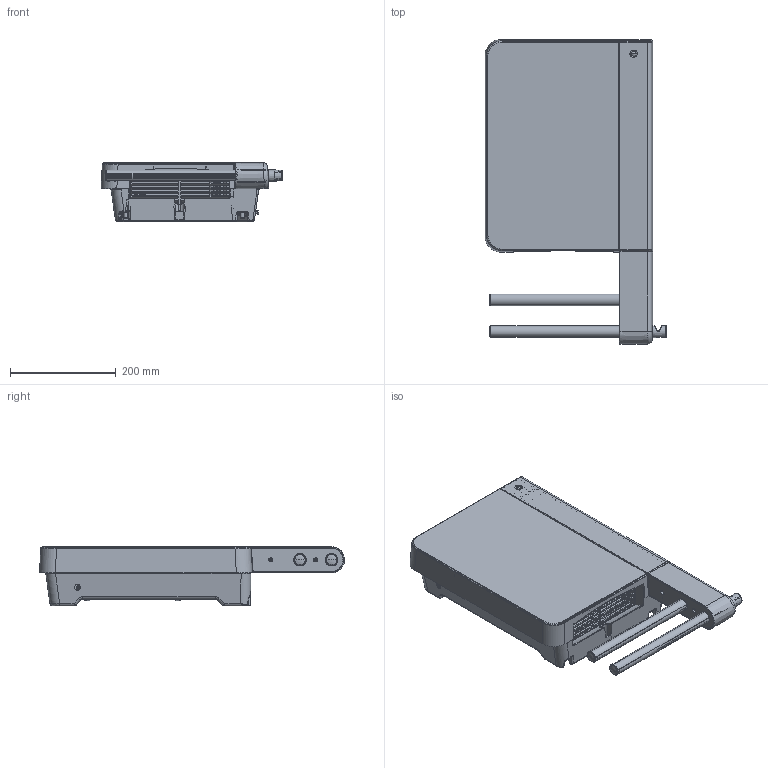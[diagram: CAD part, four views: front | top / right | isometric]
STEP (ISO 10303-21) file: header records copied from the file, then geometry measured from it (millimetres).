
FILE_DESCRIPTION(('FreeCAD Model'),'2;1');
FILE_NAME('Open CASCADE Shape Model','2026-06-16T09:54:16',(''),(''), 'Open CASCADE STEP processor 7.8','FreeCAD','Unknown');
FILE_SCHEMA(('AUTOMOTIVE_DESIGN { 1 0 10303 214 1 1 1 1 }'));
Length unit declared in the file: millimetre
Products named in the file (14): Unnamed; TBE_POSTERIORE; SLI_GUIDA-FILTRO; SLI_GRIGLIA; SLI_GR-FILTRO_ASM; SLI_FILTRO-CORPO; TBE_GR-MOTHER-BOARD_ASM; PIR_AF0; TBE_FRONTALE_NOGLASS; TBE_MASCHERINA-COMANDI; TBE_BARRA-PORTASALVIETTE; TBE_TAPPO-BARRA; TBE_COVER-PORTASALVIETTE; TBE_TAPPO-COVER-PORTASALVIETTE
Assembly tree (16 placements, depth 3):
  Unnamed
    TBE_POSTERIORE
    SLI_GUIDA-FILTRO
    SLI_GRIGLIA
    SLI_GR-FILTRO_ASM
      SLI_FILTRO-CORPO
    TBE_GR-MOTHER-BOARD_ASM
      PIR_AF0
    TBE_FRONTALE_NOGLASS
    TBE_MASCHERINA-COMANDI
    TBE_BARRA-PORTASALVIETTE  x2
    TBE_TAPPO-BARRA  x3
    TBE_COVER-PORTASALVIETTE
    TBE_TAPPO-COVER-PORTASALVIETTE
Bounding box: 345 x 578.18 x 113.25 mm (x, y, z)
Volume: 1218448.8 mm3; surface area: 1295407.7 mm2
Topology: 14 solids, 14 shells, 4566 faces, 12343 edges, 7804 vertices
Faces by surface type: plane 2133, cylinder 1046, bspline 639, cone 458, torus 205, sphere 35, revolution 34, extrusion 16
Entity records: 187187 total; most frequent: CARTESIAN_POINT 80772, ORIENTED_EDGE 24188, DIRECTION 19088, EDGE_CURVE 12094, VERTEX_POINT 7654, VECTOR 6762, LINE 6746, AXIS2_PLACEMENT_3D 6146
